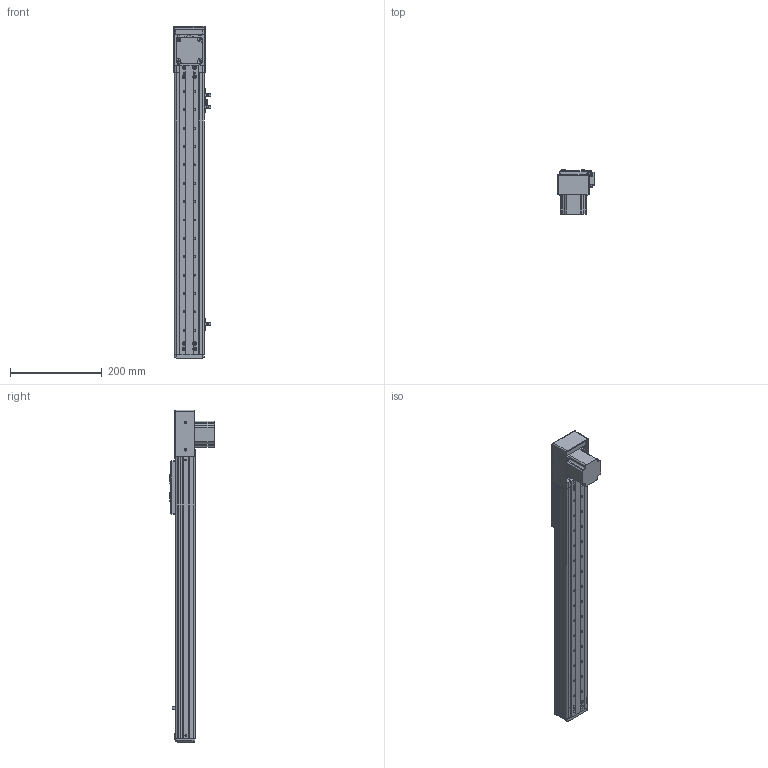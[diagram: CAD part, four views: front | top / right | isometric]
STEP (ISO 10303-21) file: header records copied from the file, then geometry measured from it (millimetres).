
FILE_DESCRIPTION (( 'STEP AP203' ), '1' );
FILE_NAME ('RY60F-T-350-DK.SLDASM_450.step', '2021-03-02T00:55:50', ( '盈信电脑' ), ( '东莞市道滘镇水果街19号' ), 'SwSTEP 2.0', 'SolidWorks 2012', '' );
FILE_SCHEMA (( 'CONFIG_CONTROL_DESIGN' ));
Length unit declared in the file: millimetre
Products named in the file (19): RY60F-T-350-DK.SLDASM_450; RY60F-T-狟殏欶; RY60F-肮祭湍揤輸2; 57祭輛萇儂; RY60F-T-下折同步带拉紧板; RY60F-T-57萇儂奻殏假蚾啣; RY60F-肮祭湍揤輸; RY60F-350-肮祭湍滅鳥詩え-DK_450; 滅袉蝶18-24; RY50F-350-MR15W絳寢-DK_450; 覜茼ん672; RY60F-T-下折57电机端同步轮座; RY60F-祥凄詩滅鳥裔; RY60F-350肮祭湍俋褲-DK_450; RY50-60詩湍揤啣; RY60F-浮动端同步轮支撑座; RY60F-嫖萇羲壽結え; RY60F-滅鳥詩え盓殤; RY60F-肮祭湍臏賑輸
Assembly tree (23 placements, depth 2):
  RY60F-T-350-DK.SLDASM_450
    RY60F-肮祭湍臏賑輸
    RY60F-浮动端同步轮支撑座
    RY60F-滅鳥詩え盓殤
    RY60F-嫖萇羲壽結え
    RY50-60詩湍揤啣  x2
    RY60F-祥凄詩滅鳥裔
    RY60F-T-下折57电机端同步轮座
    RY60F-350肮祭湍俋褲-DK_450  x2
    覜茼ん672  x3
    RY60F-350-肮祭湍滅鳥詩え-DK_450
    RY50F-350-MR15W絳寢-DK_450
    滅袉蝶18-24  x2
    RY60F-T-57萇儂奻殏假蚾啣
    RY60F-T-下折同步带拉紧板
    RY60F-肮祭湍揤輸
    RY60F-肮祭湍揤輸2
    57祭輛萇儂
    RY60F-T-狟殏欶
Bounding box: 80.76 x 96.5 x 723 mm (x, y, z)
Volume: 814458.8 mm3; surface area: 494963.9 mm2
Topology: 23 solids, 23 shells, 1162 faces, 3182 edges, 2044 vertices
Faces by surface type: plane 546, cylinder 535, cone 71, bspline 10
Entity records: 35677 total; most frequent: CARTESIAN_POINT 6481, DIRECTION 5748, ORIENTED_EDGE 5540, EDGE_CURVE 2770, AXIS2_PLACEMENT_3D 2019, VERTEX_POINT 1812, LINE 1710, VECTOR 1710
